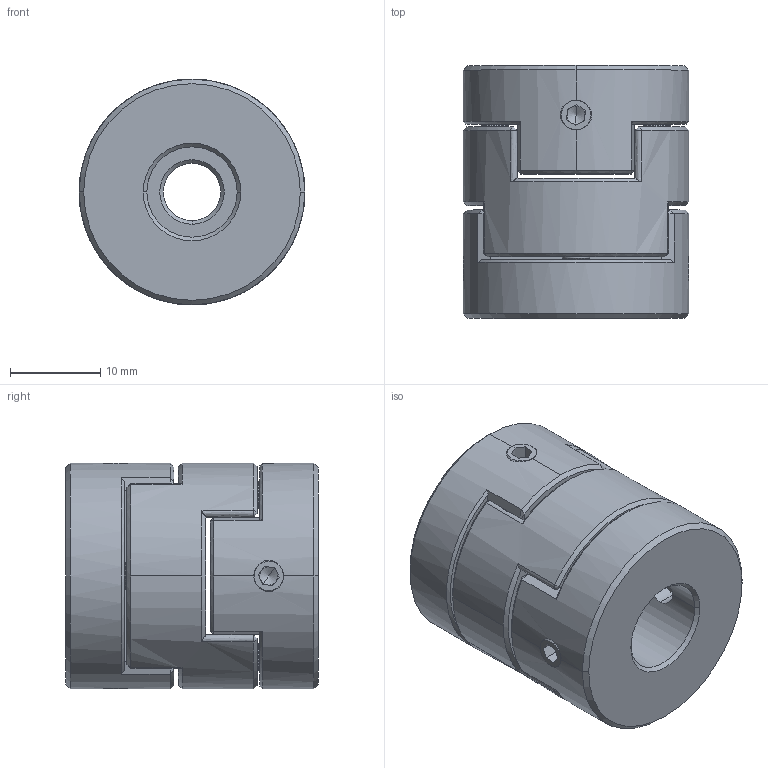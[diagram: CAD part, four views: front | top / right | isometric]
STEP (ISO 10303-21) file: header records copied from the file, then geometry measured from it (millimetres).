
FILE_DESCRIPTION (( 'STEP AP203' ), '1' );
FILE_NAME ('LZ-D-D25L28-6.35-10.STEP', '2021-10-30T02:15:04', ( '' ), ( '' ), 'SwSTEP 2.0', 'SolidWorks 2018', '' );
FILE_SCHEMA (( 'CONFIG_CONTROL_DESIGN' ));
Length unit declared in the file: millimetre
Products named in the file (1): LZ-D-D25L28-6.35-10
Bounding box: 25 x 28 x 25 mm (x, y, z)
Volume: 11422.2 mm3; surface area: 5544.7 mm2
Topology: 1 solids, 1 shells, 218 faces, 574 edges, 348 vertices
Faces by surface type: plane 88, cone 54, bspline 50, cylinder 26
Entity records: 9882 total; most frequent: CARTESIAN_POINT 4958, ORIENTED_EDGE 1132, DIRECTION 834, EDGE_CURVE 566, VERTEX_POINT 348, AXIS2_PLACEMENT_3D 303, EDGE_LOOP 234, LINE 228
